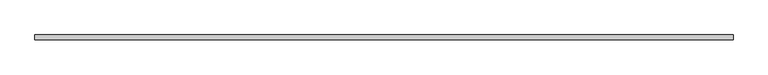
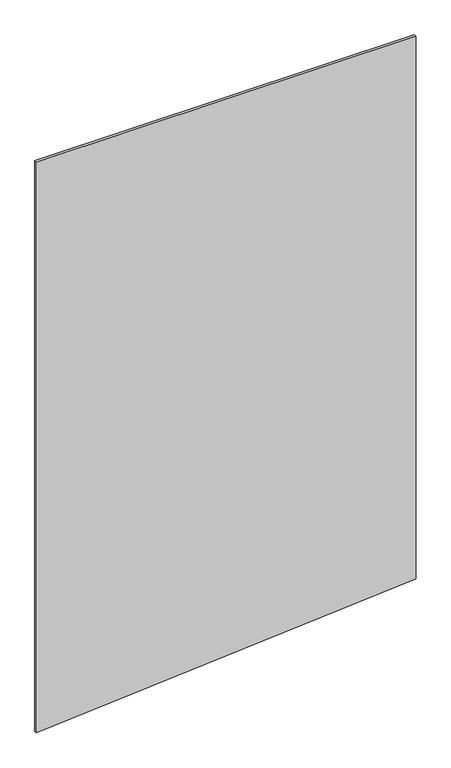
"""IFC4 building model written with IfcOpenShell, lengths in millimetres: plate geometry, 系統嵌板 : 玻璃 1.0cm."""

from ifc_helpers import new_model, si_unit, frame, origin, place, context, project, spatial, polyline, outline, extrude, source, transform, mapped, element, save


def plate_2dcb93ad(model_context):
    return source(origin(), model_context, "Body", "SweptSolid", [
        extrude(outline(polyline([(0.0, -750.0), (117.1081356, 750.0), (2384.3286302, 750.0), (2384.3286302, -750.0), (0.0, -750.0)])), frame((0.0, -5.0, 0.0), z_axis=(0.0, 1.0, 0.0), x_axis=(0.0, 0.0, 1.0)), (0.0, 0.0, 1.0), 10.0),
    ])


if __name__ == "__main__":
    model = new_model("IFC4")
    model_context = context("Model", 3, world=origin())
    ifc_project = project(units=[si_unit("LENGTHUNIT", "METRE", prefix="MILLI")], contexts=[model_context])
    site = spatial("IfcSite", under=ifc_project)
    building = spatial("IfcBuilding", under=site)
    placement = place(None, origin())
    plate_shape = plate_2dcb93ad(model_context)
    element("IfcPlate", 1, ObjectType="系統嵌板 : 玻璃 1.0cm", at=placement, inside=building, context=model_context, shape_type="MappedRepresentation", body=[
        mapped(plate_shape, transform((0.0, 0.0, 0.0), x_axis=(1.0, 0.0, 0.0), y_axis=(0.0, 1.0, 0.0), z_axis=(0.0, 0.0, 1.0))),
    ])
    save(model, "model.ifc")
